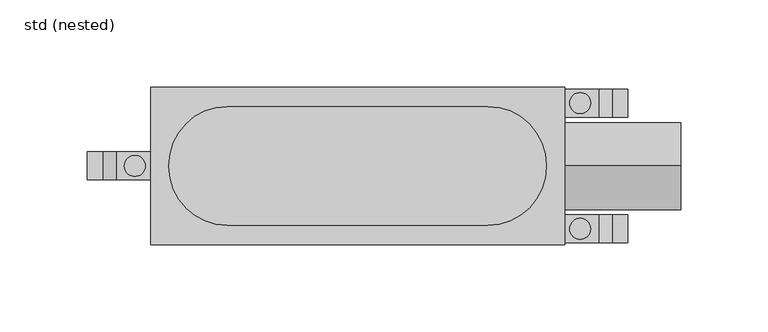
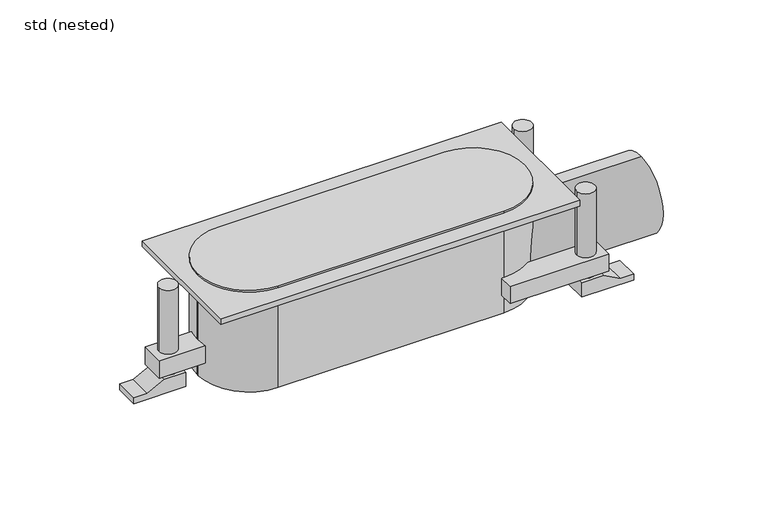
"""IFC4 building model written with IfcOpenShell, lengths in millimetres: sanitary terminal geometry, ZZZ_do not use_PF_WPB_floor drain ShowerDrain S+_ACO : std (nested)."""

from ifc_helpers import new_model, si_unit, point, frame, frame_2d, origin, place, context, project, spatial, polyline, circle_curve, trimmed, segment, composite_curve, outline, extrude, source, transform, mapped, element, save
from ifc_brep_helpers import plane_surface, cylinder_surface, advanced_brep


def std_nested_2facc37a(model_context):
    return source(origin(), model_context, "Body", "SolidModel", [
        extrude(outline(composite_curve([segment(trimmed(circle_curve(frame_2d((-74.5, 0.5)), 33.5), [point((-108.0, 0.5))], [point((-74.5, 34.0))], False, "CARTESIAN"), True, "CONTINUOUS"), segment(polyline([(-74.5, 34.0), (74.5, 34.0)]), True, "CONTINUOUS"), segment(trimmed(circle_curve(frame_2d((74.5, 0.5)), 33.5), [point((74.5, 34.0))], [point((108.0, 0.5))], False, "CARTESIAN"), True, "CONTINUOUS"), segment(polyline([(108.0, 0.5), (108.0, -0.5)]), True, "CONTINUOUS"), segment(trimmed(circle_curve(frame_2d((74.5, -0.5)), 33.5), [point((108.0, -0.5))], [point((74.5, -34.0))], False, "CARTESIAN"), True, "CONTINUOUS"), segment(polyline([(74.5, -34.0), (-74.5, -34.0)]), True, "CONTINUOUS"), segment(trimmed(circle_curve(frame_2d((-74.5, -0.5)), 33.5), [point((-74.5, -34.0))], [point((-108.0, -0.5))], False, "CARTESIAN"), True, "CONTINUOUS"), segment(polyline([(-108.0, -0.5), (-108.0, 0.5)]), True, "CONTINUOUS")], self_intersect=False)), frame((0.0, 0.0, -71.0111617), z_axis=(0.0, 0.0, 1.0), x_axis=(1.0, 0.0, 0.0)), (0.0, 0.0, 1.0), 71.0),
        extrude(outline(composite_curve([segment(trimmed(circle_curve(frame_2d((0.0, -46.0111617)), 25.0), [point((0.0, -71.0111617))], [point((0.0, -21.0111617))], False, "CARTESIAN"), True, "CONTINUOUS"), segment(trimmed(circle_curve(frame_2d((0.0, -46.0111617)), 25.0), [point((0.0, -21.0111617))], [point((0.0, -71.0111617))], False, "CARTESIAN"), True, "CONTINUOUS")], self_intersect=False)), frame((0.0, 0.0, 0.0), z_axis=(1.0, 0.0, 0.0), x_axis=(0.0, 1.0, 0.0)), (0.0, 0.0, 1.0), 185.0),
        extrude(outline(polyline([(118.5, 45.0), (118.5, -45.0), (-118.5, -45.0), (-118.5, 45.0), (118.5, 45.0)]), holes=[composite_curve([segment(polyline([(-108.0, 0.5), (-108.0, -0.5)]), True, "CONTINUOUS"), segment(trimmed(circle_curve(frame_2d((-74.5, -0.5)), 33.5), [point((-108.0, -0.5))], [point((-74.5, -34.0))], True, "CARTESIAN"), True, "CONTINUOUS"), segment(polyline([(-74.5, -34.0), (74.5, -34.0)]), True, "CONTINUOUS"), segment(trimmed(circle_curve(frame_2d((74.5, -0.5)), 33.5), [point((74.5, -34.0))], [point((108.0, -0.5))], True, "CARTESIAN"), True, "CONTINUOUS"), segment(polyline([(108.0, -0.5), (108.0, 0.5)]), True, "CONTINUOUS"), segment(trimmed(circle_curve(frame_2d((74.5, 0.5)), 33.5), [point((108.0, 0.5))], [point((74.5, 34.0))], True, "CARTESIAN"), True, "CONTINUOUS"), segment(polyline([(74.5, 34.0), (-74.5, 34.0)]), True, "CONTINUOUS"), segment(trimmed(circle_curve(frame_2d((-74.5, 0.5)), 33.5), [point((-74.5, 34.0))], [point((-108.0, 0.5))], True, "CARTESIAN"), True, "CONTINUOUS")], self_intersect=False)]), frame((0.0, 0.0, -5.0111617), z_axis=(0.0, 0.0, 1.0), x_axis=(1.0, 0.0, 0.0)), (0.0, 0.0, 1.0), 4.0),
        extrude(outline(composite_curve([segment(polyline([(138.0, 44.0), (138.0, 28.0), (93.6311265, 28.0)]), True, "CONTINUOUS"), segment(trimmed(circle_curve(frame_2d((74.5, 0.5)), 33.5), [point((93.6311265, 28.0))], [point((74.5, 34.0))], True, "CARTESIAN"), True, "CONTINUOUS"), segment(polyline([(74.5, 34.0), (73.0, 34.0), (73.0, 44.0), (138.0, 44.0)]), True, "CONTINUOUS")], self_intersect=False)), frame((0.0, 0.0, -58.0111617), z_axis=(0.0, 0.0, 1.0), x_axis=(1.0, 0.0, 0.0)), (0.0, 0.0, 1.0), 12.0),
        extrude(outline(composite_curve([segment(polyline([(-138.0, -8.0), (-138.0, 8.0), (-107.1496554, 8.0)]), True, "CONTINUOUS"), segment(trimmed(circle_curve(frame_2d((-74.5, 0.5)), 33.5), [point((-107.1496554, 8.0))], [point((-108.0, 0.5))], True, "CARTESIAN"), True, "CONTINUOUS"), segment(polyline([(-108.0, 0.5), (-108.0, -0.5)]), True, "CONTINUOUS"), segment(trimmed(circle_curve(frame_2d((-74.5, -0.5)), 33.5), [point((-108.0, -0.5))], [point((-107.1496554, -8.0))], True, "CARTESIAN"), True, "CONTINUOUS"), segment(polyline([(-107.1496554, -8.0), (-138.0, -8.0)]), True, "CONTINUOUS")], self_intersect=False)), frame((0.0, 0.0, -58.0111617), z_axis=(0.0, 0.0, 1.0), x_axis=(1.0, 0.0, 0.0)), (0.0, 0.0, 1.0), 12.0),
        extrude(outline(composite_curve([segment(polyline([(138.0, -44.0), (73.0, -44.0), (73.0, -34.0), (74.5, -34.0)]), True, "CONTINUOUS"), segment(trimmed(circle_curve(frame_2d((74.5, -0.5)), 33.5), [point((74.5, -34.0))], [point((93.6311265, -28.0))], True, "CARTESIAN"), True, "CONTINUOUS"), segment(polyline([(93.6311265, -28.0), (138.0, -28.0), (138.0, -44.0)]), True, "CONTINUOUS")], self_intersect=False)), frame((0.0, 0.0, -58.0111617), z_axis=(0.0, 0.0, 1.0), x_axis=(1.0, 0.0, 0.0)), (0.0, 0.0, 1.0), 12.0),
        advanced_brep(
        [(-154.7, -8.0, -70.0111617), (-120.3, -8.0, -70.0111617), (-120.3, -8.0, -60.0111617), (-134.7, -8.0, -60.0111617), (-145.7, -8.0, -66.0111617), (-154.7, -8.0, -66.0111617), (-120.3, 8.0, -70.0111617), (-154.7, 8.0, -70.0111617), (-154.7, 8.0, -66.0111617), (-145.7, 8.0, -66.0111617), (-134.7, 8.0, -60.0111617), (-120.3, 8.0, -60.0111617), (-133.5, 0.0, -60.0111617), (-121.5, 0.0, -60.0111617), (-121.5, 0.0, -1.0111617), (-133.5, 0.0, -1.0111617)],
        [
            (0, 1),
            (1, 2),
            (2, 3),
            (3, 4),
            (4, 5),
            (5, 0),
            (6, 7),
            (7, 8),
            (8, 9),
            (9, 10),
            (10, 11),
            (11, 6),
            (1, 6),
            (11, 2),
            (10, 3),
            (12, 13, circle_curve(frame((-127.5, 0.0, -60.0111617), z_axis=(0.0, 0.0, -1.0), x_axis=(-1.0, 0.0, 0.0)), 6.0)),
            (13, 12, circle_curve(frame((-127.5, 0.0, -60.0111617), z_axis=(0.0, 0.0, -1.0), x_axis=(-1.0, 0.0, 0.0)), 6.0)),
            (9, 4),
            (8, 5),
            (7, 0),
            (14, 15, circle_curve(frame((-127.5, 0.0, -1.0111617), z_axis=(0.0, 0.0, 1.0), x_axis=(-1.0, 0.0, 0.0)), 6.0)),
            (15, 14, circle_curve(frame((-127.5, 0.0, -1.0111617), z_axis=(0.0, 0.0, 1.0), x_axis=(-1.0, 0.0, 0.0)), 6.0)),
            (14, 13),
            (12, 15),
        ],
        [
            plane_surface(frame((-127.5, -8.0, -70.0111617), z_axis=(0.0, -1.0, 0.0), x_axis=(0.0, 0.0, 1.0))),
            plane_surface(frame((-127.5, 8.0, -70.0111617), z_axis=(0.0, 1.0, 0.0), x_axis=(0.0, 0.0, 1.0))),
            plane_surface(frame((-120.3, -8.0, -70.0111617), z_axis=(1.0, 0.0, 0.0), x_axis=(0.0, 1.0, 0.0))),
            plane_surface(frame((-120.3, -8.0, -60.0111617), z_axis=(0.0, 0.0, 1.0), x_axis=(0.0, 1.0, 0.0))),
            plane_surface(frame((-134.7, -8.0, -60.0111617), z_axis=(-0.4788521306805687, 0.0, 0.8778955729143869), x_axis=(0.0, 1.0, 0.0))),
            plane_surface(frame((-145.7, -8.0, -66.0111617), z_axis=(0.0, 0.0, 1.0), x_axis=(0.0, 1.0, 0.0))),
            plane_surface(frame((-154.7, -8.0, -66.0111617), z_axis=(-1.0, 0.0, 0.0), x_axis=(0.0, 1.0, 0.0))),
            plane_surface(frame((121.5, -36.0, -1.0111617), z_axis=(0.0, 0.0, 1.0), x_axis=(0.0, -1.0, 0.0))),
            cylinder_surface(frame((-127.5, 0.0, -70.0111617), z_axis=(0.0, 0.0, 1.0), x_axis=(-1.0, 0.0, 0.0)), 6.0),
            plane_surface(frame((-127.5, -8.0, -70.0111617), z_axis=(0.0, 0.0, -1.0), x_axis=(0.0, 1.0, 0.0))),
        ],
        [
            (0, [[1, 2, 3, 4, 5, 6]]),
            (1, [[7, 8, 9, 10, 11, 12]]),
            (2, [[-2, 13, -12, 14]]),
            (3, [[-3, -14, -11, 15], [16, 17]]),
            (4, [[-4, -15, -10, 18]]),
            (5, [[-5, -18, -9, 19]]),
            (6, [[-6, -19, -8, 20]]),
            (7, [[21, 22]]),
            (8, [[-21, 23, -16, 24]]),
            (8, [[-22, -24, -17, -23]]),
            (9, [[-1, -20, -7, -13]]),
        ],
    ),
        advanced_brep(
        [(133.5, -36.0, -1.0111617), (121.5, -36.0, -1.0111617), (154.7, -44.0, -70.0111617), (120.3, -44.0, -70.0111617), (120.3, -28.0, -70.0111617), (154.7, -28.0, -70.0111617), (133.5, -36.0, -60.0111617), (121.5, -36.0, -60.0111617), (154.7, -44.0, -66.0111617), (145.7, -44.0, -66.0111617), (134.7, -44.0, -60.0111617), (120.3, -44.0, -60.0111617), (120.3, -28.0, -60.0111617), (134.7, -28.0, -60.0111617), (145.7, -28.0, -66.0111617), (154.7, -28.0, -66.0111617)],
        [
            (0, 1, circle_curve(frame((127.5, -36.0, -1.0111617), z_axis=(0.0, 0.0, 1.0), x_axis=(-1.0, 0.0, 0.0)), 6.0)),
            (1, 0, circle_curve(frame((127.5, -36.0, -1.0111617), z_axis=(0.0, 0.0, 1.0), x_axis=(-1.0, 0.0, 0.0)), 6.0)),
            (2, 3),
            (3, 4),
            (4, 5),
            (5, 2),
            (0, 6),
            (6, 7, circle_curve(frame((127.5, -36.0, -60.0111617), z_axis=(0.0, 0.0, 1.0), x_axis=(-1.0, 0.0, 0.0)), 6.0)),
            (7, 1),
            (7, 6, circle_curve(frame((127.5, -36.0, -60.0111617), z_axis=(0.0, 0.0, 1.0), x_axis=(-1.0, 0.0, 0.0)), 6.0)),
            (2, 8),
            (8, 9),
            (9, 10),
            (10, 11),
            (11, 3),
            (4, 12),
            (12, 13),
            (13, 14),
            (14, 15),
            (15, 5),
            (11, 12),
            (10, 13),
            (9, 14),
            (8, 15),
        ],
        [
            plane_surface(frame((121.5, -36.0, -1.0111617), z_axis=(0.0, 0.0, 1.0), x_axis=(0.0, -1.0, 0.0))),
            plane_surface(frame((121.5, -36.0, -70.0111617), z_axis=(0.0, 0.0, -1.0), x_axis=(0.0, 1.0, 0.0))),
            cylinder_surface(frame((127.5, -36.0, -70.0111617), z_axis=(0.0, 0.0, 1.0), x_axis=(-1.0, 0.0, 0.0)), 6.0),
            plane_surface(frame((127.5, -44.0, -70.0111617), z_axis=(0.0, -1.0, 0.0), x_axis=(0.0, 0.0, 1.0))),
            plane_surface(frame((127.5, -28.0, -70.0111617), z_axis=(0.0, 1.0, 0.0), x_axis=(0.0, 0.0, 1.0))),
            plane_surface(frame((120.3, -44.0, -60.0111617), z_axis=(-1.0, 0.0, 0.0), x_axis=(0.0, 1.0, 0.0))),
            plane_surface(frame((134.7, -44.0, -60.0111617), z_axis=(0.0, 0.0, 1.0), x_axis=(0.0, 1.0, 0.0))),
            plane_surface(frame((145.7, -44.0, -66.0111617), z_axis=(0.4788521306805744, 0.0, 0.8778955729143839), x_axis=(0.0, 1.0, 0.0))),
            plane_surface(frame((154.7, -44.0, -66.0111617), z_axis=(0.0, 0.0, 1.0), x_axis=(0.0, 1.0, 0.0))),
            plane_surface(frame((154.7, -44.0, -70.0111617), z_axis=(1.0, 0.0, 0.0), x_axis=(0.0, 1.0, 0.0))),
        ],
        [
            (0, [[1, 2]]),
            (1, [[3, 4, 5, 6]]),
            (2, [[-1, 7, 8, 9]]),
            (2, [[-2, -9, 10, -7]]),
            (3, [[-3, 11, 12, 13, 14, 15]]),
            (4, [[-5, 16, 17, 18, 19, 20]]),
            (5, [[-15, 21, -16, -4]]),
            (6, [[-14, 22, -17, -21], [-8, -10]]),
            (7, [[-13, 23, -18, -22]]),
            (8, [[-12, 24, -19, -23]]),
            (9, [[-11, -6, -20, -24]]),
        ],
    ),
        advanced_brep(
        [(133.5, 36.0, -1.0111617), (121.5, 36.0, -1.0111617), (154.7, 28.0, -70.0111617), (120.3, 28.0, -70.0111617), (120.3, 44.0, -70.0111617), (154.7, 44.0, -70.0111617), (133.5, 36.0, -60.0111617), (121.5, 36.0, -60.0111617), (154.7, 28.0, -66.0111617), (145.7, 28.0, -66.0111617), (134.7, 28.0, -60.0111617), (120.3, 28.0, -60.0111617), (120.3, 44.0, -60.0111617), (134.7, 44.0, -60.0111617), (145.7, 44.0, -66.0111617), (154.7, 44.0, -66.0111617)],
        [
            (0, 1, circle_curve(frame((127.5, 36.0, -1.0111617), z_axis=(0.0, 0.0, 1.0), x_axis=(-1.0, 0.0, 0.0)), 6.0)),
            (1, 0, circle_curve(frame((127.5, 36.0, -1.0111617), z_axis=(0.0, 0.0, 1.0), x_axis=(-1.0, 0.0, 0.0)), 6.0)),
            (2, 3),
            (3, 4),
            (4, 5),
            (5, 2),
            (0, 6),
            (6, 7, circle_curve(frame((127.5, 36.0, -60.0111617), z_axis=(0.0, 0.0, 1.0), x_axis=(-1.0, 0.0, 0.0)), 6.0)),
            (7, 1),
            (7, 6, circle_curve(frame((127.5, 36.0, -60.0111617), z_axis=(0.0, 0.0, 1.0), x_axis=(-1.0, 0.0, 0.0)), 6.0)),
            (2, 8),
            (8, 9),
            (9, 10),
            (10, 11),
            (11, 3),
            (4, 12),
            (12, 13),
            (13, 14),
            (14, 15),
            (15, 5),
            (11, 12),
            (10, 13),
            (9, 14),
            (8, 15),
        ],
        [
            plane_surface(frame((121.5, -36.0, -1.0111617), z_axis=(0.0, 0.0, 1.0), x_axis=(0.0, -1.0, 0.0))),
            plane_surface(frame((121.5, -36.0, -70.0111617), z_axis=(0.0, 0.0, -1.0), x_axis=(0.0, 1.0, 0.0))),
            cylinder_surface(frame((127.5, 36.0, -70.0111617), z_axis=(0.0, 0.0, 1.0), x_axis=(-1.0, 0.0, 0.0)), 6.0),
            plane_surface(frame((127.5, 28.0, -70.0111617), z_axis=(0.0, -1.0, 0.0), x_axis=(0.0, 0.0, 1.0))),
            plane_surface(frame((127.5, 44.0, -70.0111617), z_axis=(0.0, 1.0, 0.0), x_axis=(0.0, 0.0, 1.0))),
            plane_surface(frame((120.3, 28.0, -60.0111617), z_axis=(-1.0, 0.0, 0.0), x_axis=(0.0, 1.0, 0.0))),
            plane_surface(frame((134.7, 28.0, -60.0111617), z_axis=(0.0, 0.0, 1.0), x_axis=(0.0, 1.0, 0.0))),
            plane_surface(frame((145.7, 28.0, -66.0111617), z_axis=(0.4788521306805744, 0.0, 0.8778955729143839), x_axis=(0.0, 1.0, 0.0))),
            plane_surface(frame((154.7, 28.0, -66.0111617), z_axis=(0.0, 0.0, 1.0), x_axis=(0.0, 1.0, 0.0))),
            plane_surface(frame((154.7, 28.0, -70.0111617), z_axis=(1.0, 0.0, 0.0), x_axis=(0.0, 1.0, 0.0))),
        ],
        [
            (0, [[1, 2]]),
            (1, [[3, 4, 5, 6]]),
            (2, [[-1, 7, 8, 9]]),
            (2, [[-2, -9, 10, -7]]),
            (3, [[-3, 11, 12, 13, 14, 15]]),
            (4, [[-5, 16, 17, 18, 19, 20]]),
            (5, [[-15, 21, -16, -4]]),
            (6, [[-14, 22, -17, -21], [-8, -10]]),
            (7, [[-13, 23, -18, -22]]),
            (8, [[-12, 24, -19, -23]]),
            (9, [[-11, -6, -20, -24]]),
        ],
    ),
    ])


if __name__ == "__main__":
    model = new_model("IFC4")
    model_context = context("Model", 3, world=origin())
    ifc_project = project(units=[si_unit("LENGTHUNIT", "METRE", prefix="MILLI")], contexts=[model_context])
    site = spatial("IfcSite", under=ifc_project)
    building = spatial("IfcBuilding", under=site)
    placement = place(None, origin())
    std_nested_shape = std_nested_2facc37a(model_context)
    element("IfcSanitaryTerminal", 1, ObjectType="ZZZ_do not use_PF_WPB_floor drain ShowerDrain S+_ACO : std (nested)", at=placement, inside=building, context=model_context, shape_type="MappedRepresentation", body=[
        mapped(std_nested_shape, transform((0.0, 0.0, 0.0), x_axis=(1.0, 0.0, 0.0), y_axis=(0.0, 1.0, 0.0), z_axis=(0.0, 0.0, 1.0))),
    ])
    save(model, "model.ifc")
